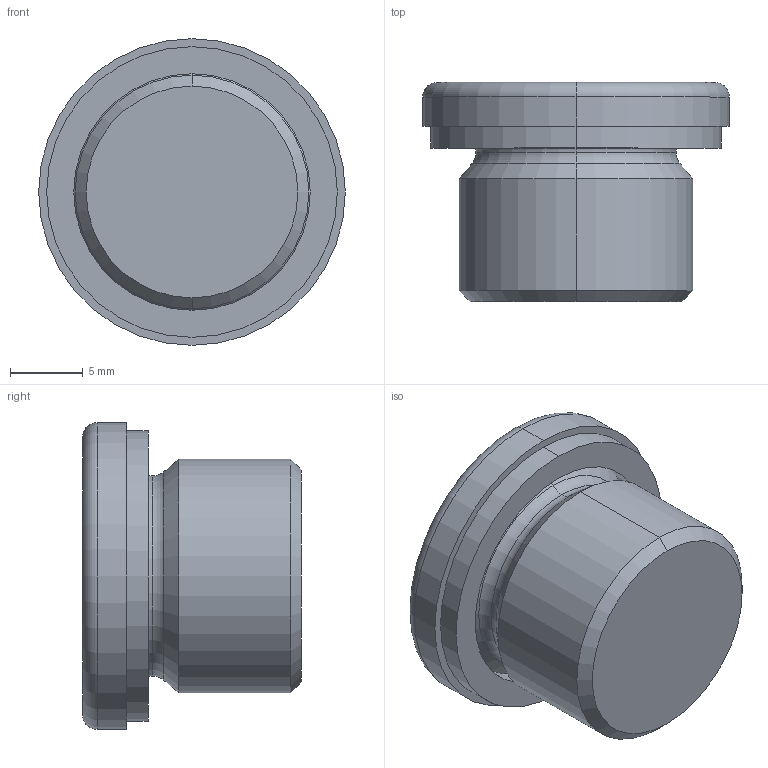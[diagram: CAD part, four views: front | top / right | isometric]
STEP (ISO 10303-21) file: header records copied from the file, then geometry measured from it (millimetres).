
FILE_DESCRIPTION (( 'STEP AP214' ), '1' );
FILE_NAME ('908-ST-M16x1,5-AA.step', '2024-12-19T09:17:35', ( '' ), ( '' ), 'SwSTEP 2.0', 'SolidWorks 2022', '' );
FILE_SCHEMA (( 'AUTOMOTIVE_DESIGN' ));
Length unit declared in the file: millimetre
Products named in the file (1): 908-ST-M16x1,5-AA
Bounding box: 21 x 15 x 21 mm (x, y, z)
Volume: 3049.4 mm3; surface area: 1834.7 mm2
Topology: 1 solids, 1 shells, 31 faces, 64 edges, 38 vertices
Faces by surface type: plane 11, cylinder 8, torus 6, cone 6
Entity records: 929 total; most frequent: DIRECTION 160, CARTESIAN_POINT 134, ORIENTED_EDGE 128, EDGE_CURVE 64, AXIS2_PLACEMENT_3D 64, VERTEX_POINT 38, EDGE_LOOP 34, CIRCLE 32
